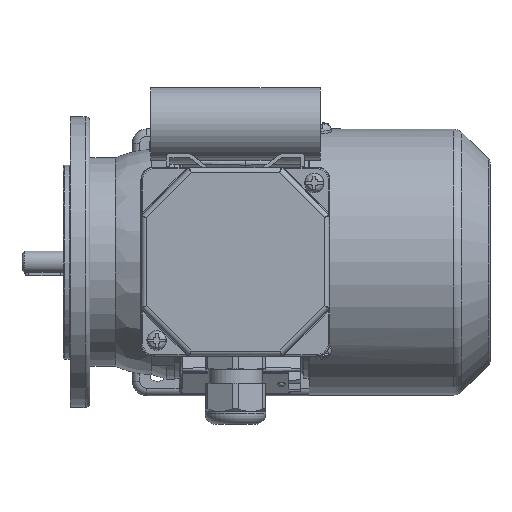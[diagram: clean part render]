
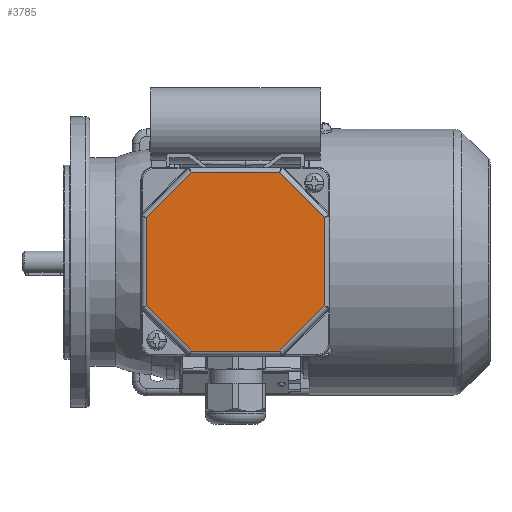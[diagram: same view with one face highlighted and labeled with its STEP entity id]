
A CAD part, top view. The second image highlights one B-rep face of the part: STEP entity #3785.
In plain terms, the highlighted planar face has unit normal (0, 0, 1).
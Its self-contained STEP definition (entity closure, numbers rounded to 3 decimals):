
#3785 = ADVANCED_FACE( '', ( #8287 ), #8288, .T. );
#8287 = FACE_OUTER_BOUND( '', #17809, .T. );
#8288 = PLANE( '', #17810 );
#17809 = EDGE_LOOP( '', ( #33577, #33578, #33579, #33580, #33581, #33582, #33583, #33584 ) );
#17810 = AXIS2_PLACEMENT_3D( '', #33585, #33586, #33587 );
#33577 = ORIENTED_EDGE( '', *, *, #45334, .T. );
#33578 = ORIENTED_EDGE( '', *, *, #46630, .T. );
#33579 = ORIENTED_EDGE( '', *, *, #46631, .T. );
#33580 = ORIENTED_EDGE( '', *, *, #45074, .T. );
#33581 = ORIENTED_EDGE( '', *, *, #44379, .T. );
#33582 = ORIENTED_EDGE( '', *, *, #46632, .T. );
#33583 = ORIENTED_EDGE( '', *, *, #46091, .T. );
#33584 = ORIENTED_EDGE( '', *, *, #45511, .T. );
#33585 = CARTESIAN_POINT( '', ( -39., 39., 12. ) );
#33586 = DIRECTION( '', ( 0., 0., 1. ) );
#33587 = DIRECTION( '', ( 1., 0., 0. ) );
#44379 = EDGE_CURVE( '', #52382, #52383, #52384, .F. );
#45074 = EDGE_CURVE( '', #53552, #52382, #53553, .T. );
#45334 = EDGE_CURVE( '', #53968, #53966, #53969, .F. );
#45511 = EDGE_CURVE( '', #54248, #53968, #54249, .T. );
#46091 = EDGE_CURVE( '', #55120, #54248, #55121, .F. );
#46630 = EDGE_CURVE( '', #53966, #55915, #55916, .T. );
#46631 = EDGE_CURVE( '', #55915, #53552, #55917, .F. );
#46632 = EDGE_CURVE( '', #52383, #55120, #55918, .T. );
#52382 = VERTEX_POINT( '', #63978 );
#52383 = VERTEX_POINT( '', #63979 );
#52384 = LINE( '', #63980, #63981 );
#53552 = VERTEX_POINT( '', #66980 );
#53553 = LINE( '', #66981, #66982 );
#53966 = VERTEX_POINT( '', #67962 );
#53968 = VERTEX_POINT( '', #67964 );
#53969 = LINE( '', #67965, #67966 );
#54248 = VERTEX_POINT( '', #68612 );
#54249 = LINE( '', #68613, #68614 );
#55120 = VERTEX_POINT( '', #71138 );
#55121 = LINE( '', #71139, #71140 );
#55915 = VERTEX_POINT( '', #72728 );
#55916 = LINE( '', #72729, #72730 );
#55917 = LINE( '', #72731, #72732 );
#55918 = LINE( '', #72733, #72734 );
#63978 = CARTESIAN_POINT( '', ( -36.825, 18.255, 12. ) );
#63979 = CARTESIAN_POINT( '', ( -36.825, -18.255, 12. ) );
#63980 = CARTESIAN_POINT( '', ( -36.825, -19.069, 12. ) );
#63981 = VECTOR( '', #81952, 1000. );
#66980 = CARTESIAN_POINT( '', ( -18.255, 36.825, 12. ) );
#66981 = CARTESIAN_POINT( '', ( -37.401, 17.679, 12. ) );
#66982 = VECTOR( '', #82788, 1000. );
#67962 = CARTESIAN_POINT( '', ( 36.825, 18.255, 12. ) );
#67964 = CARTESIAN_POINT( '', ( 36.825, -18.255, 12. ) );
#67965 = CARTESIAN_POINT( '', ( 36.825, 19.069, 12. ) );
#67966 = VECTOR( '', #83102, 1000. );
#68612 = CARTESIAN_POINT( '', ( 18.255, -36.825, 12. ) );
#68613 = CARTESIAN_POINT( '', ( 37.401, -17.679, 12. ) );
#68614 = VECTOR( '', #83320, 1000. );
#71138 = CARTESIAN_POINT( '', ( -18.255, -36.825, 12. ) );
#71139 = CARTESIAN_POINT( '', ( 19.069, -36.825, 12. ) );
#71140 = VECTOR( '', #83957, 1000. );
#72728 = CARTESIAN_POINT( '', ( 18.255, 36.825, 12. ) );
#72729 = CARTESIAN_POINT( '', ( 17.679, 37.401, 12. ) );
#72730 = VECTOR( '', #84605, 1000. );
#72731 = CARTESIAN_POINT( '', ( -19.069, 36.825, 12. ) );
#72732 = VECTOR( '', #84606, 1000. );
#72733 = CARTESIAN_POINT( '', ( -17.679, -37.401, 12. ) );
#72734 = VECTOR( '', #84607, 1000. );
#81952 = DIRECTION( '', ( 0., 1., 0. ) );
#82788 = DIRECTION( '', ( -0.707, -0.707, 0. ) );
#83102 = DIRECTION( '', ( 0., -1., 0. ) );
#83320 = DIRECTION( '', ( 0.707, 0.707, 0. ) );
#83957 = DIRECTION( '', ( -1., 0., 0. ) );
#84605 = DIRECTION( '', ( -0.707, 0.707, 0. ) );
#84606 = DIRECTION( '', ( 1., 0., 0. ) );
#84607 = DIRECTION( '', ( 0.707, -0.707, 0. ) );
